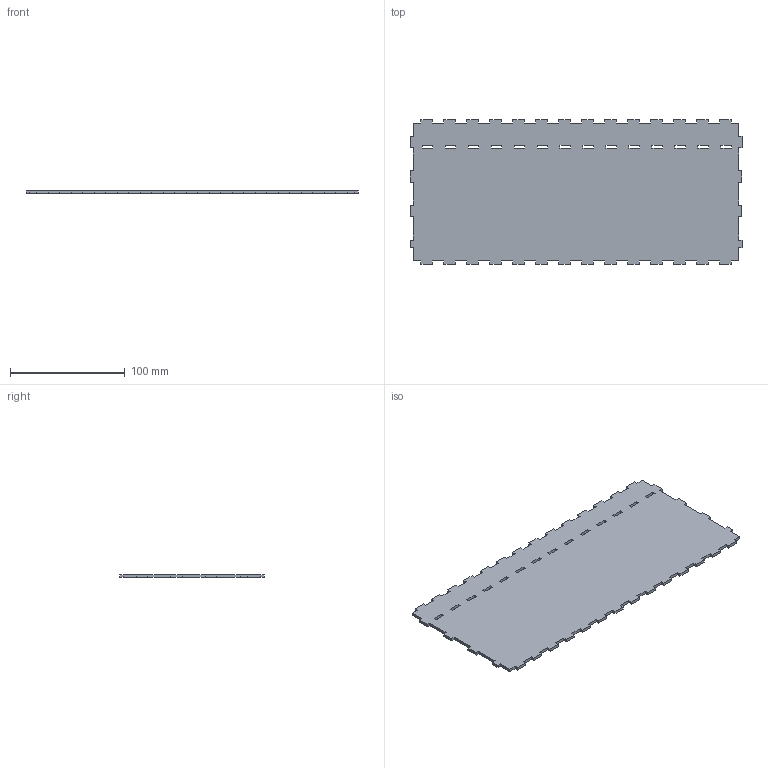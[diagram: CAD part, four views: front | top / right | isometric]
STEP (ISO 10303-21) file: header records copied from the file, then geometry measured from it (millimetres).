
FILE_DESCRIPTION (( 'STEP AP214' ), '1' );
FILE_NAME ('lado1large.STEP', '2025-06-15T00:42:24', ( '' ), ( '' ), 'SwSTEP 2.0', 'SolidWorks 2024', '' );
FILE_SCHEMA (( 'AUTOMOTIVE_DESIGN' ));
Length unit declared in the file: millimetre
Products named in the file (1): lado1large
Bounding box: 289 x 126 x 2.5 mm (x, y, z)
Volume: 86722.9 mm3; surface area: 72769.8 mm2
Topology: 1 solids, 1 shells, 206 faces, 612 edges, 408 vertices
Faces by surface type: plane 206
Entity records: 6835 total; most frequent: CARTESIAN_POINT 1227, ORIENTED_EDGE 1224, DIRECTION 1026, LINE 612, VECTOR 612, EDGE_CURVE 612, VERTEX_POINT 408, EDGE_LOOP 234
